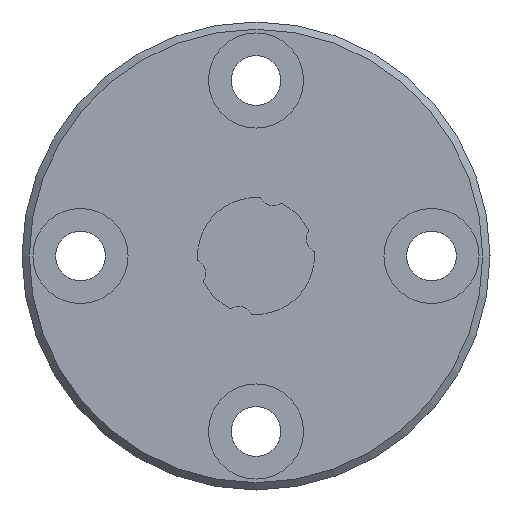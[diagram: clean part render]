
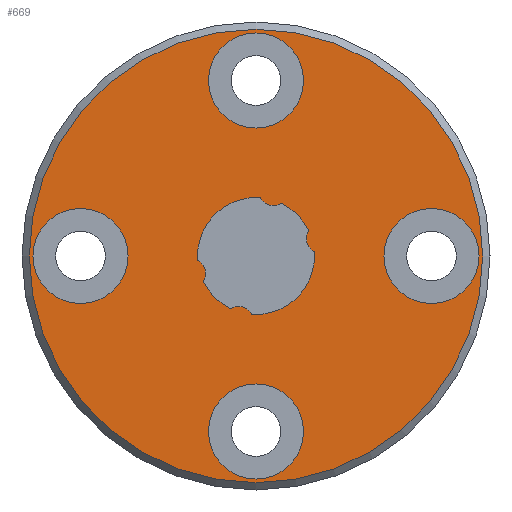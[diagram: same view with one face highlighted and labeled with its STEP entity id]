
A CAD part, left-side view. The second image highlights one B-rep face of the part: STEP entity #669.
In plain terms, the highlighted planar face has unit normal (-1, 0, 0).
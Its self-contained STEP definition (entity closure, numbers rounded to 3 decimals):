
#44=PLANE('',#757);
#135=ORIENTED_EDGE('',*,*,#279,.F.);
#136=ORIENTED_EDGE('',*,*,#280,.F.);
#137=ORIENTED_EDGE('',*,*,#281,.F.);
#138=ORIENTED_EDGE('',*,*,#282,.F.);
#139=ORIENTED_EDGE('',*,*,#283,.F.);
#140=ORIENTED_EDGE('',*,*,#284,.T.);
#141=ORIENTED_EDGE('',*,*,#285,.F.);
#142=ORIENTED_EDGE('',*,*,#286,.T.);
#143=ORIENTED_EDGE('',*,*,#287,.F.);
#144=ORIENTED_EDGE('',*,*,#288,.T.);
#145=ORIENTED_EDGE('',*,*,#289,.F.);
#146=ORIENTED_EDGE('',*,*,#290,.T.);
#147=ORIENTED_EDGE('',*,*,#291,.F.);
#279=EDGE_CURVE('',#355,#355,#421,.T.);
#280=EDGE_CURVE('',#356,#356,#422,.F.);
#281=EDGE_CURVE('',#357,#357,#423,.F.);
#282=EDGE_CURVE('',#358,#358,#424,.F.);
#283=EDGE_CURVE('',#359,#359,#425,.F.);
#284=EDGE_CURVE('',#360,#361,#426,.T.);
#285=EDGE_CURVE('',#362,#361,#427,.T.);
#286=EDGE_CURVE('',#362,#363,#428,.T.);
#287=EDGE_CURVE('',#364,#363,#429,.T.);
#288=EDGE_CURVE('',#364,#365,#430,.T.);
#289=EDGE_CURVE('',#366,#365,#431,.T.);
#290=EDGE_CURVE('',#366,#367,#432,.T.);
#291=EDGE_CURVE('',#360,#367,#433,.T.);
#355=VERTEX_POINT('',#1125);
#356=VERTEX_POINT('',#1127);
#357=VERTEX_POINT('',#1129);
#358=VERTEX_POINT('',#1131);
#359=VERTEX_POINT('',#1133);
#360=VERTEX_POINT('',#1135);
#361=VERTEX_POINT('',#1136);
#362=VERTEX_POINT('',#1138);
#363=VERTEX_POINT('',#1140);
#364=VERTEX_POINT('',#1142);
#365=VERTEX_POINT('',#1144);
#366=VERTEX_POINT('',#1146);
#367=VERTEX_POINT('',#1148);
#421=CIRCLE('',#758,15.5);
#422=CIRCLE('',#759,3.25);
#423=CIRCLE('',#760,3.25);
#424=CIRCLE('',#761,3.25);
#425=CIRCLE('',#762,3.25);
#426=CIRCLE('',#763,4.);
#427=CIRCLE('',#764,1.04);
#428=CIRCLE('',#765,4.);
#429=CIRCLE('',#766,1.04);
#430=CIRCLE('',#767,4.);
#431=CIRCLE('',#768,1.04);
#432=CIRCLE('',#769,4.);
#433=CIRCLE('',#770,1.04);
#475=EDGE_LOOP('',(#135));
#476=EDGE_LOOP('',(#136));
#477=EDGE_LOOP('',(#137));
#478=EDGE_LOOP('',(#138));
#479=EDGE_LOOP('',(#139));
#480=EDGE_LOOP('',(#140,#141,#142,#143,#144,#145,#146,#147));
#557=FACE_BOUND('',#475,.T.);
#558=FACE_BOUND('',#476,.T.);
#559=FACE_BOUND('',#477,.T.);
#560=FACE_BOUND('',#478,.T.);
#561=FACE_BOUND('',#479,.T.);
#562=FACE_BOUND('',#480,.T.);
#669=ADVANCED_FACE('',(#557,#558,#559,#560,#561,#562),#44,.F.);
#757=AXIS2_PLACEMENT_3D('',#1123,#901,#902);
#758=AXIS2_PLACEMENT_3D('',#1124,#903,#904);
#759=AXIS2_PLACEMENT_3D('',#1126,#905,#906);
#760=AXIS2_PLACEMENT_3D('',#1128,#907,#908);
#761=AXIS2_PLACEMENT_3D('',#1130,#909,#910);
#762=AXIS2_PLACEMENT_3D('',#1132,#911,#912);
#763=AXIS2_PLACEMENT_3D('',#1134,#913,#914);
#764=AXIS2_PLACEMENT_3D('',#1137,#915,#916);
#765=AXIS2_PLACEMENT_3D('',#1139,#917,#918);
#766=AXIS2_PLACEMENT_3D('',#1141,#919,#920);
#767=AXIS2_PLACEMENT_3D('',#1143,#921,#922);
#768=AXIS2_PLACEMENT_3D('',#1145,#923,#924);
#769=AXIS2_PLACEMENT_3D('',#1147,#925,#926);
#770=AXIS2_PLACEMENT_3D('',#1149,#927,#928);
#901=DIRECTION('',(1.,0.,0.));
#902=DIRECTION('',(0.,0.,-1.));
#903=DIRECTION('',(1.,0.,0.));
#904=DIRECTION('',(0.,0.,-1.));
#905=DIRECTION('',(1.,0.,0.));
#906=DIRECTION('',(0.,0.,-1.));
#907=DIRECTION('',(1.,0.,0.));
#908=DIRECTION('',(0.,0.,-1.));
#909=DIRECTION('',(1.,0.,0.));
#910=DIRECTION('',(0.,0.,-1.));
#911=DIRECTION('',(1.,0.,0.));
#912=DIRECTION('',(0.,0.,-1.));
#913=DIRECTION('',(1.,0.,0.));
#914=DIRECTION('',(0.,0.,-1.));
#915=DIRECTION('',(1.,0.,0.));
#916=DIRECTION('',(0.,0.,-1.));
#917=DIRECTION('',(1.,0.,0.));
#918=DIRECTION('',(0.,0.,-1.));
#919=DIRECTION('',(1.,0.,0.));
#920=DIRECTION('',(0.,0.,-1.));
#921=DIRECTION('',(1.,0.,0.));
#922=DIRECTION('',(0.,0.,-1.));
#923=DIRECTION('',(1.,0.,0.));
#924=DIRECTION('',(0.,0.,-1.));
#925=DIRECTION('',(1.,0.,0.));
#926=DIRECTION('',(0.,0.,-1.));
#927=DIRECTION('',(1.,0.,0.));
#928=DIRECTION('',(0.,0.,-1.));
#1123=CARTESIAN_POINT('',(0.,0.,0.));
#1124=CARTESIAN_POINT('',(0.,0.,0.));
#1125=CARTESIAN_POINT('',(0.,0.,-15.5));
#1126=CARTESIAN_POINT('',(0.,12.,0.));
#1127=CARTESIAN_POINT('',(0.,12.,-3.25));
#1128=CARTESIAN_POINT('',(0.,0.,-12.));
#1129=CARTESIAN_POINT('',(0.,0.,-15.25));
#1130=CARTESIAN_POINT('',(0.,0.,12.));
#1131=CARTESIAN_POINT('',(0.,0.,8.75));
#1132=CARTESIAN_POINT('',(0.,-12.,0.));
#1133=CARTESIAN_POINT('',(0.,-12.,-3.25));
#1134=CARTESIAN_POINT('',(0.,0.,0.));
#1135=CARTESIAN_POINT('',(0.,1.741,-3.601));
#1136=CARTESIAN_POINT('',(0.,3.601,-1.741));
#1137=CARTESIAN_POINT('',(0.,4.492,-1.204));
#1138=CARTESIAN_POINT('',(0.,3.989,-0.293));
#1139=CARTESIAN_POINT('',(0.,0.,0.));
#1140=CARTESIAN_POINT('',(0.,-0.293,3.989));
#1141=CARTESIAN_POINT('',(0.,-1.204,4.492));
#1142=CARTESIAN_POINT('',(0.,-1.741,3.601));
#1143=CARTESIAN_POINT('',(0.,0.,0.));
#1144=CARTESIAN_POINT('',(0.,-3.601,1.741));
#1145=CARTESIAN_POINT('',(0.,-4.492,1.204));
#1146=CARTESIAN_POINT('',(0.,-3.989,0.293));
#1147=CARTESIAN_POINT('',(0.,0.,0.));
#1148=CARTESIAN_POINT('',(0.,0.293,-3.989));
#1149=CARTESIAN_POINT('',(0.,1.204,-4.492));
